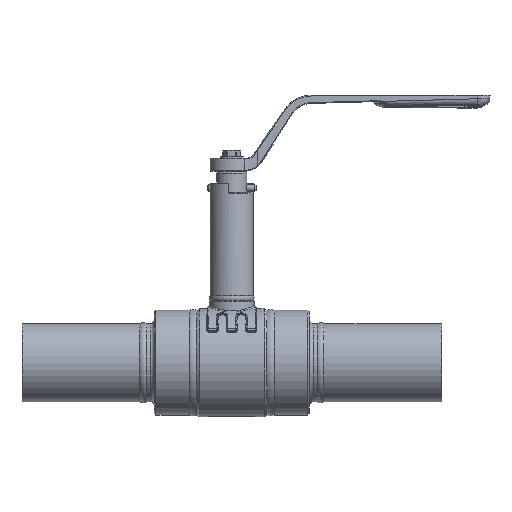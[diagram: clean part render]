
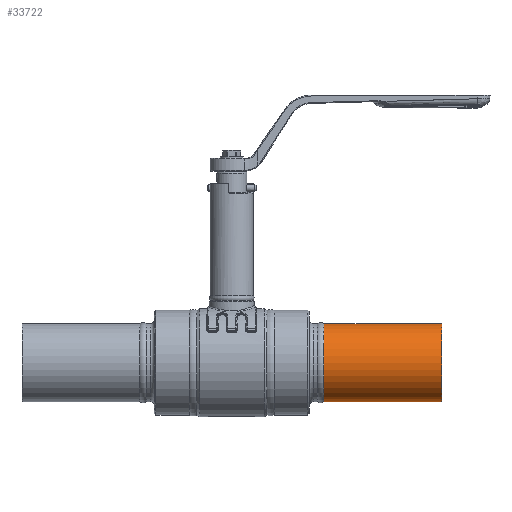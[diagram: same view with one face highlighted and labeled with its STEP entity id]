
A CAD part, front view. The second image highlights one B-rep face of the part: STEP entity #33722.
In plain terms, the highlighted cylindrical face has radius 24.15 mm (diameter 48.3 mm), a partial arc.
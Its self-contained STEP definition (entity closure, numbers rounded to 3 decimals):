
#10514=CARTESIAN_POINT('',(57.,0.,0.));
#10515=DIRECTION('',(1.,0.,0.));
#10516=DIRECTION('',(0.,0.,1.));
#10517=AXIS2_PLACEMENT_3D('',#10514,#10515,#10516);
#10524=DIRECTION('',(1.,0.,0.));
#10525=VECTOR('',#10524,73.);
#10526=CARTESIAN_POINT('',(57.,0.,-24.15));
#10527=LINE('',#10526,#10525);
#10528=DIRECTION('',(1.,0.,0.));
#10529=VECTOR('',#10528,73.);
#10530=CARTESIAN_POINT('',(57.,0.,24.15));
#10531=LINE('',#10530,#10529);
#10532=CARTESIAN_POINT('',(130.,0.,0.));
#10533=DIRECTION('',(1.,0.,0.));
#10534=DIRECTION('',(0.,0.,1.));
#10535=AXIS2_PLACEMENT_3D('',#10532,#10533,#10534);
#14438=CARTESIAN_POINT('',(130.,0.,24.15));
#14439=CARTESIAN_POINT('',(130.,0.,-24.15));
#14440=VERTEX_POINT('',#14438);
#14441=VERTEX_POINT('',#14439);
#15650=CARTESIAN_POINT('',(57.,0.,24.15));
#15651=CARTESIAN_POINT('',(57.,0.,-24.15));
#15652=VERTEX_POINT('',#15650);
#15653=VERTEX_POINT('',#15651);
#33708=CARTESIAN_POINT('',(51.25,0.,0.));
#33709=DIRECTION('',(1.,0.,0.));
#33710=DIRECTION('',(0.,0.,1.));
#33711=AXIS2_PLACEMENT_3D('',#33708,#33709,#33710);
#33712=CYLINDRICAL_SURFACE('',#33711,24.15);
#33713=ORIENTED_EDGE('',*,*,#33683,.F.);
#33715=ORIENTED_EDGE('',*,*,#33714,.T.);
#33717=ORIENTED_EDGE('',*,*,#33716,.T.);
#33719=ORIENTED_EDGE('',*,*,#33718,.F.);
#33720=EDGE_LOOP('',(#33713,#33715,#33717,#33719));
#33721=FACE_OUTER_BOUND('',#33720,.F.);
#10518=CIRCLE('',#10517,24.15);
#10536=CIRCLE('',#10535,24.15);
#33683=EDGE_CURVE('',#15652,#15653,#10518,.T.);
#33714=EDGE_CURVE('',#15652,#14440,#10531,.T.);
#33716=EDGE_CURVE('',#14440,#14441,#10536,.T.);
#33718=EDGE_CURVE('',#15653,#14441,#10527,.T.);
#33722=ADVANCED_FACE('',(#33721),#33712,.T.);
